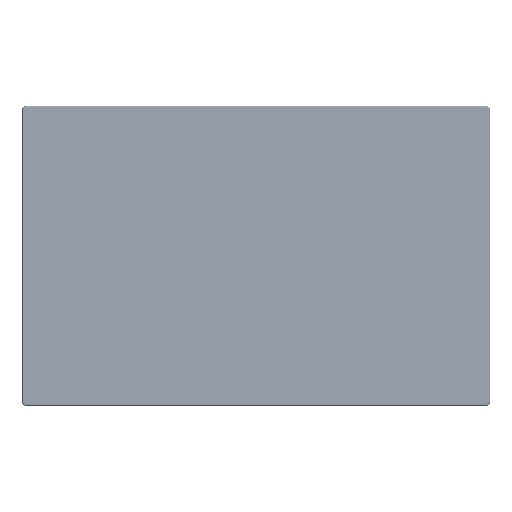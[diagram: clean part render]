
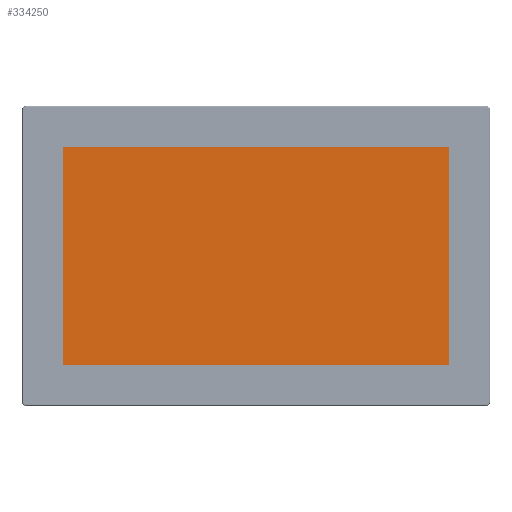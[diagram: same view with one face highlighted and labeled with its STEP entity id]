
A CAD part, top view. The second image highlights one B-rep face of the part: STEP entity #334250.
In plain terms, the highlighted planar face has unit normal (0, 0, 1).
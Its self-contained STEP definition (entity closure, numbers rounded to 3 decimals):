
#1390 = VECTOR ( 'NONE', #454668, 1000. ) ;
#36027 = VECTOR ( 'NONE', #644518, 1000. ) ;
#39711 = DIRECTION ( 'NONE',  ( 0., 0., 1. ) ) ;
#47976 = DIRECTION ( 'NONE',  ( -1., 0., 0. ) ) ;
#74548 = CARTESIAN_POINT ( 'NONE',  ( -172.95, -97.6, 1.8 ) ) ;
#106120 = ORIENTED_EDGE ( 'NONE', *, *, #493241, .T. ) ;
#125605 = LINE ( 'NONE', #250673, #246961 ) ;
#161168 = AXIS2_PLACEMENT_3D ( 'NONE', #349538, #39711, #401554 ) ;
#164877 = EDGE_LOOP ( 'NONE', ( #476262, #106120, #325192, #246974 ) ) ;
#168932 = EDGE_CURVE ( 'NONE', #423831, #195673, #173611, .T. ) ;
#173611 = LINE ( 'NONE', #74548, #36027 ) ;
#195673 = VERTEX_POINT ( 'NONE', #553039 ) ;
#201784 = CARTESIAN_POINT ( 'NONE',  ( -172.95, 97.6, 1.8 ) ) ;
#205182 = CARTESIAN_POINT ( 'NONE',  ( 172.95, 97.6, 1.8 ) ) ;
#246961 = VECTOR ( 'NONE', #612652, 1000. ) ;
#246974 = ORIENTED_EDGE ( 'NONE', *, *, #168932, .T. ) ;
#250673 = CARTESIAN_POINT ( 'NONE',  ( 172.95, 97.6, 1.8 ) ) ;
#276550 = LINE ( 'NONE', #350670, #1390 ) ;
#325192 = ORIENTED_EDGE ( 'NONE', *, *, #420962, .T. ) ;
#334250 = ADVANCED_FACE ( 'NONE', ( #641237 ), #399283, .T. ) ;
#349538 = CARTESIAN_POINT ( 'NONE',  ( 0., 0., 1.8 ) ) ;
#350670 = CARTESIAN_POINT ( 'NONE',  ( -172.95, 97.6, 1.8 ) ) ;
#399283 = PLANE ( 'NONE',  #161168 ) ;
#401554 = DIRECTION ( 'NONE',  ( 1., 0., 0. ) ) ;
#420962 = EDGE_CURVE ( 'NONE', #511839, #423831, #276550, .T. ) ;
#423831 = VERTEX_POINT ( 'NONE', #448729 ) ;
#438648 = VERTEX_POINT ( 'NONE', #205182 ) ;
#442641 = CARTESIAN_POINT ( 'NONE',  ( -172.95, 97.6, 1.8 ) ) ;
#448729 = CARTESIAN_POINT ( 'NONE',  ( -172.95, -97.6, 1.8 ) ) ;
#454668 = DIRECTION ( 'NONE',  ( 0., -1., 0. ) ) ;
#462612 = VECTOR ( 'NONE', #47976, 1000. ) ;
#476262 = ORIENTED_EDGE ( 'NONE', *, *, #635329, .T. ) ;
#493241 = EDGE_CURVE ( 'NONE', #438648, #511839, #600469, .T. ) ;
#511839 = VERTEX_POINT ( 'NONE', #442641 ) ;
#553039 = CARTESIAN_POINT ( 'NONE',  ( 172.95, -97.6, 1.8 ) ) ;
#600469 = LINE ( 'NONE', #201784, #462612 ) ;
#612652 = DIRECTION ( 'NONE',  ( 0., 1., 0. ) ) ;
#635329 = EDGE_CURVE ( 'NONE', #195673, #438648, #125605, .T. ) ;
#641237 = FACE_OUTER_BOUND ( 'NONE', #164877, .T. ) ;
#644518 = DIRECTION ( 'NONE',  ( 1., 0., 0. ) ) ;
